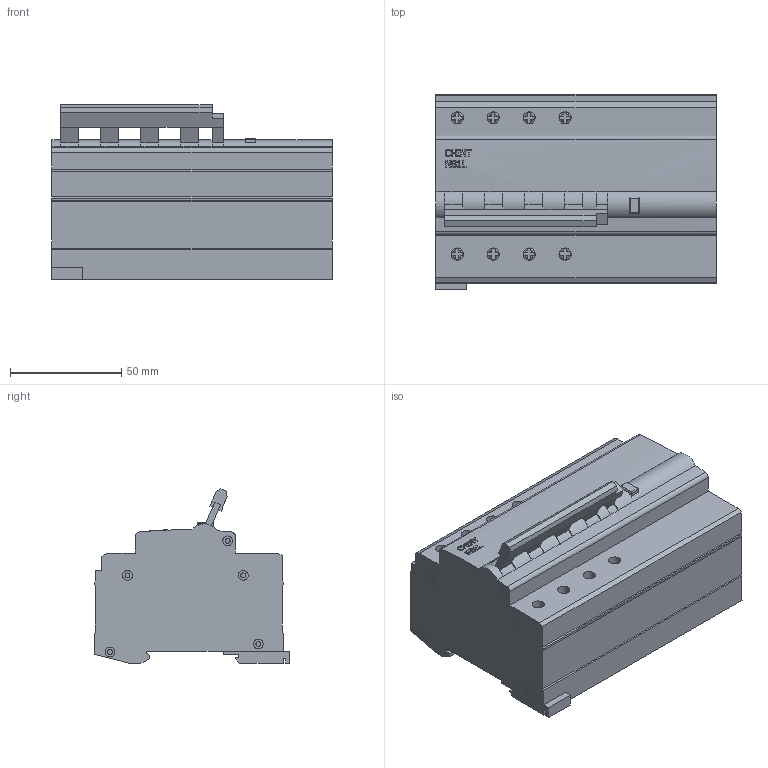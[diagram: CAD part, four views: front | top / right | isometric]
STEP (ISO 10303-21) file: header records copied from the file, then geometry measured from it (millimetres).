
FILE_DESCRIPTION(/* description */ (''),/* implementation_level */ '2;1');
FILE_NAME(/* name */ 'D:\CHINT\NB1L\Диф. автомат NB1L-40 4P C10 30mA тип AC 6kA (R) (CHINT).stp',/* time_stamp */ '2017-09-24T19:16:45+04:00',/* author */ ('RSagdiev'),/* organization */ (''),/* preprocessor_version */ 'ST-DEVELOPER v16.5',/* originating_system */ 'Autodesk Inventor 2017',/* authorisation */ '');
FILE_SCHEMA (('AUTOMOTIVE_DESIGN { 1 0 10303 214 3 1 1 }'));
Length unit declared in the file: millimetre
Products named in the file (1): Диф. автомат NB1L-40 4P
 C10 30mA тип AC 6kA (R) (CHINT)
Bounding box: 126 x 88 x 78.44 mm (x, y, z)
Volume: 553846.9 mm3; surface area: 57996.3 mm2
Topology: 18 solids, 18 shells, 451 faces, 1094 edges, 721 vertices
Faces by surface type: plane 345, cylinder 67, bspline 31, torus 8
Full cylindrical faces by diameter (mm): 2.1 x3, 2.2 x11, 4.4 x10, 5.5 x8
Entity records: 13534 total; most frequent: CARTESIAN_POINT 2985, DIRECTION 2160, ORIENTED_EDGE 2092, EDGE_CURVE 1046, AXIS2_PLACEMENT_3D 756, VERTEX_POINT 713, LINE 648, VECTOR 648
